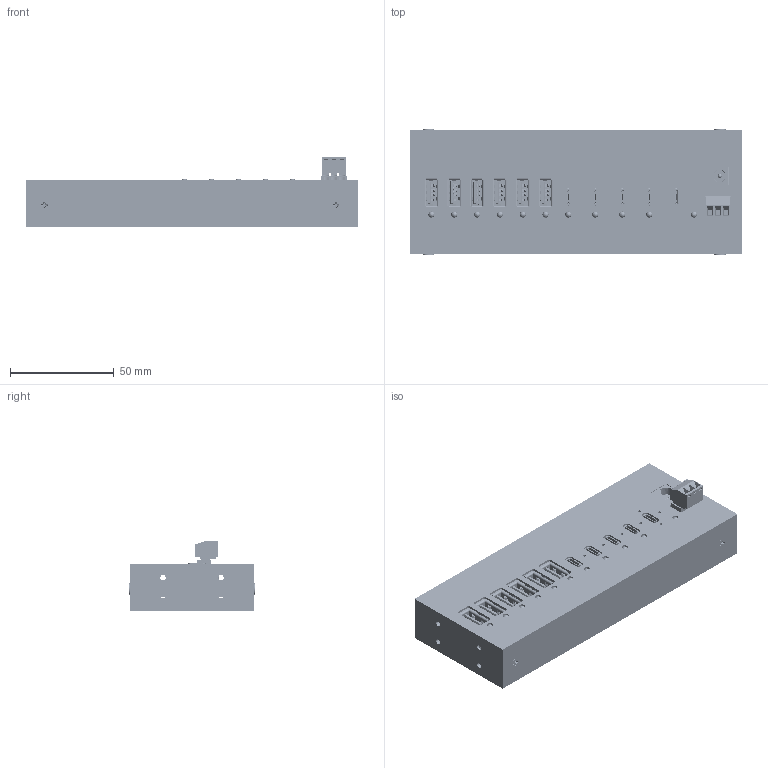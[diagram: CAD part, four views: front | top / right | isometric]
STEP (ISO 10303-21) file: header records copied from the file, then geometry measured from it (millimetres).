
FILE_DESCRIPTION(('FreeCAD Model'),'2;1');
FILE_NAME('Open CASCADE Shape Model','2024-09-05T13:05:26',(''),(''), 'Open CASCADE STEP processor 7.6','FreeCAD','Unknown');
FILE_SCHEMA(('AUTOMOTIVE_DESIGN { 1 0 10303 214 1 1 1 1 }'));
Length unit declared in the file: millimetre
Products named in the file (129): EX_12280HMS; 12280HMS_pcb; Assem1; 692121430000_Housing; 692121430000_Pin2; 692121430000_Pin003; 692121430000_Pin004; 692121430000_Pin005; 692121430000_Pin006; 692121430000_SHIELDING; 692121430000_Pin1; 692121430000_Pin007; 692121430000_Pin008; 692121430000_Pin009; 692121430000_Housing2; Assem002; 692121430000_Housing003; 692121430000_Pin010; 692121430000_Pin011; 692121430000_Pin012; 692121430000_Pin013; 692121430000_Pin014; 692121430000_SHIELDING001; 692121430000_Pin015; 692121430000_Pin016; 692121430000_Pin017; 692121430000_Pin018; 692121430000_Housing004; Assem003; 692121430000_Housing005; 692121430000_Pin019; 692121430000_Pin020; 692121430000_Pin021; 692121430000_Pin022; 692121430000_Pin023; 692121430000_SHIELDING002; 692121430000_Pin024; 692121430000_Pin025; 692121430000_Pin026; 692121430000_Pin027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
Assembly tree (136 placements, depth 3):
  EX_12280HMS
    12280HMS_pcb
    Assem1
      692121430000_Housing
      692121430000_Pin2
      692121430000_Pin003
      692121430000_Pin004
      692121430000_Pin005
      692121430000_Pin006
      692121430000_SHIELDING
      692121430000_Pin1
      692121430000_Pin007
      692121430000_Pin008
      692121430000_Pin009
      692121430000_Housing2
    Assem002
      692121430000_Housing003
      692121430000_Pin010
      692121430000_Pin011
      692121430000_Pin012
      692121430000_Pin013
      692121430000_Pin014
      692121430000_SHIELDING001
      692121430000_Pin015
      692121430000_Pin016
      692121430000_Pin017
      692121430000_Pin018
      692121430000_Housing004
    Assem003
      692121430000_Housing005
      692121430000_Pin019
      692121430000_Pin020
      692121430000_Pin021
      692121430000_Pin022
      692121430000_Pin023
      692121430000_SHIELDING002
      692121430000_Pin024
      692121430000_Pin025
      692121430000_Pin026
      692121430000_Pin027
      692121430000_Housing006
    Assem004
      692121430000_Housing007
      692121430000_Pin028
      692121430000_Pin029
      692121430000_Pin030
      692121430000_Pin031
      692121430000_Pin032
      692121430000_SHIELDING003
      692121430000_Pin033
      692121430000_Pin034
      692121430000_Pin035
      692121430000_Pin036
      692121430000_Housing008
    Assem005
      692121430000_Housing009
      692121430000_Pin037
      692121430000_Pin038
      692121430000_Pin039
      692121430000_Pin040
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Bounding box: 160 x 60.4 x 34 mm (x, y, z)
Volume: 51664.4 mm3; surface area: 108960.6 mm2
Topology: 147 solids, 147 shells, 15129 faces, 42468 edges, 27970 vertices
Faces by surface type: plane 10763, cylinder 3554, extrusion 310, cone 244, torus 214, sphere 44
Full cylindrical faces by diameter (mm): 1.35 x3, 1.5 x7, 1.598 x3, 1.9 x9, 2 x3, 2.4 x4, 2.5 x16, 2.6 x8, 2.7 x3, 2.9 x3, 3 x11, 3.4 x8, 4 x11, 4.1 x8
Entity records: 503855 total; most frequent: CARTESIAN_POINT 94199, ORIENTED_EDGE 83888, DIRECTION 78954, EDGE_CURVE 41944, VECTOR 33146, LINE 32836, VERTEX_POINT 27666, AXIS2_PLACEMENT_3D 22904
